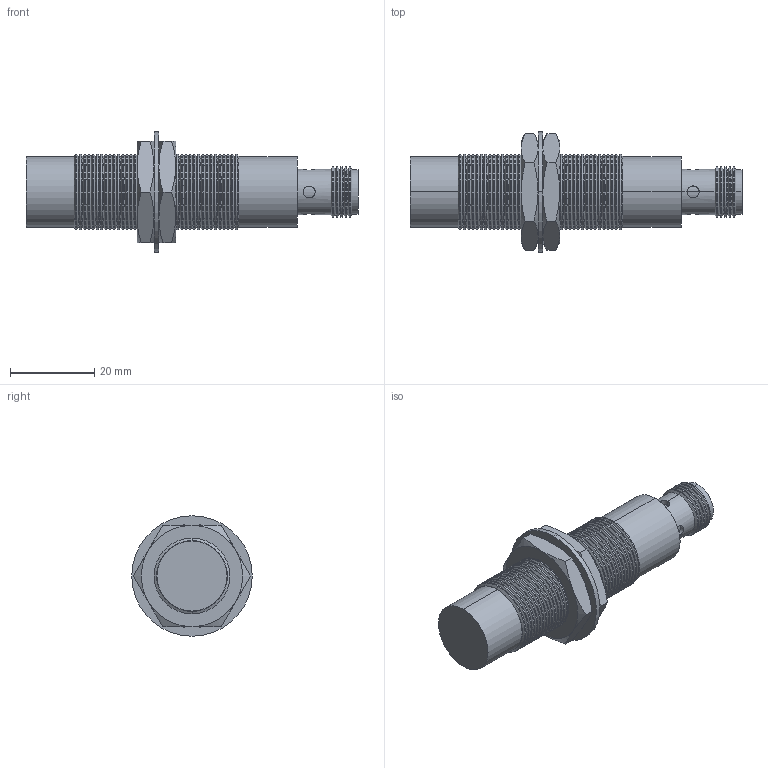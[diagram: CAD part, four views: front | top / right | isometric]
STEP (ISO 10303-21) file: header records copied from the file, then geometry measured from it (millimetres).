
FILE_DESCRIPTION (( 'STEP AP203' ), '1' );
FILE_NAME ('90-29417-058.STEP', '2015-11-14T20:39:29', ( 'Sam' ), ( 'Spade' ), 'SwSTEP 2.0', 'SolidWorks 2002296', '' );
FILE_SCHEMA (( 'CONFIG_CONTROL_DESIGN' ));
Length unit declared in the file: inch
Products named in the file (11): 90-29417-058; Imported26; Imported25; Imported24; Imported23; Imported29; Imported28; Imported27; Imported22; Imported21; Imported20
Assembly tree (10 placements, depth 2):
  90-29417-058
    Imported22
    Imported24
    Imported23
    Imported27
    Imported29
    Imported25
    Imported20
    Imported26
    Imported28
    Imported21
Bounding box: 78.74 x 28.57 x 28.57 mm (x, y, z)
Volume: 18371.5 mm3; surface area: 10765 mm2
Topology: 10 solids, 10 shells, 554 faces, 1277 edges, 739 vertices
Faces by surface type: cylinder 241, cone 232, plane 75, bspline 6
Entity records: 17270 total; most frequent: CARTESIAN_POINT 3283, DIRECTION 2951, ORIENTED_EDGE 2542, EDGE_CURVE 1271, AXIS2_PLACEMENT_3D 1183, VERTEX_POINT 739, CIRCLE 622, LINE 585
